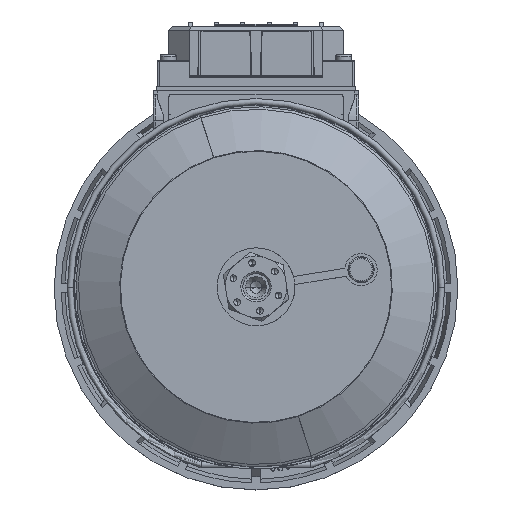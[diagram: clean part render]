
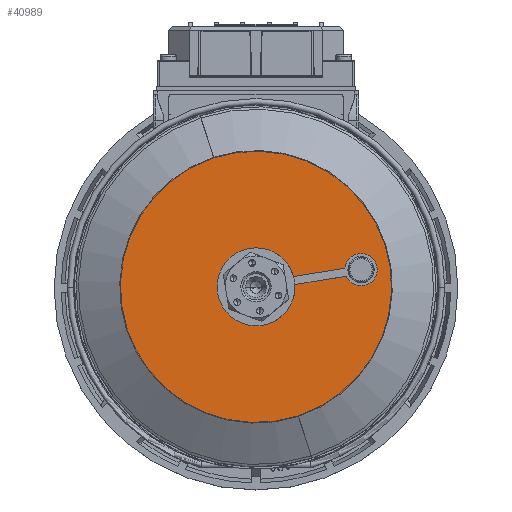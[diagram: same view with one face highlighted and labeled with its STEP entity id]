
A CAD part, top view. The second image highlights one B-rep face of the part: STEP entity #40989.
In plain terms, the highlighted planar face has unit normal (0, 0, 1) as drawn and (0, -1, 0) by its records, which use the part's own axes.
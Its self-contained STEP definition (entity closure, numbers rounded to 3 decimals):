
#1759 = DIRECTION ( 'NONE',  ( 0., 0., 1. ) ) ;
#2091 = ORIENTED_EDGE ( 'NONE', *, *, #23284, .F. ) ;
#5263 = CARTESIAN_POINT ( 'NONE',  ( 0., 0., -13.5 ) ) ;
#9043 = CARTESIAN_POINT ( 'NONE',  ( 0., 0., 67.5 ) ) ;
#9353 = DIRECTION ( 'NONE',  ( 0., 0., -1. ) ) ;
#10522 = CARTESIAN_POINT ( 'NONE',  ( 0., 0., 0. ) ) ;
#10630 = CIRCLE ( 'NONE', #49463, 67.5 ) ;
#11770 = ORIENTED_EDGE ( 'NONE', *, *, #24250, .F. ) ;
#15391 = AXIS2_PLACEMENT_3D ( 'NONE', #106468, #62324, #9353 ) ;
#19390 = DIRECTION ( 'NONE',  ( 0., 0., 1. ) ) ;
#20986 = VERTEX_POINT ( 'NONE', #9043 ) ;
#21715 = EDGE_LOOP ( 'NONE', ( #11770, #2091 ) ) ;
#22048 = VERTEX_POINT ( 'NONE', #92279 ) ;
#23284 = EDGE_CURVE ( 'NONE', #54119, #20986, #10630, .T. ) ;
#24250 = EDGE_CURVE ( 'NONE', #20986, #54119, #89265, .T. ) ;
#28552 = DIRECTION ( 'NONE',  ( 0., 1., 0. ) ) ;
#33649 = VERTEX_POINT ( 'NONE', #5263 ) ;
#35749 = EDGE_CURVE ( 'NONE', #33649, #22048, #102652, .T. ) ;
#40989 = ADVANCED_FACE ( 'NONE', ( #42126, #89164 ), #53432, .T. ) ;
#41204 = CARTESIAN_POINT ( 'NONE',  ( 0., 0., -67.5 ) ) ;
#42126 = FACE_BOUND ( 'NONE', #93524, .T. ) ;
#44772 = DIRECTION ( 'NONE',  ( 0., 1., 0. ) ) ;
#49463 = AXIS2_PLACEMENT_3D ( 'NONE', #10522, #72334, #19390 ) ;
#53432 = PLANE ( 'NONE',  #15391 ) ;
#54119 = VERTEX_POINT ( 'NONE', #41204 ) ;
#54749 = DIRECTION ( 'NONE',  ( 0., 1., 0. ) ) ;
#55418 = AXIS2_PLACEMENT_3D ( 'NONE', #81588, #28552, #90446 ) ;
#59737 = ORIENTED_EDGE ( 'NONE', *, *, #100898, .T. ) ;
#61594 = AXIS2_PLACEMENT_3D ( 'NONE', #97804, #44772, #106719 ) ;
#62324 = DIRECTION ( 'NONE',  ( 0., -1., 0. ) ) ;
#68703 = ORIENTED_EDGE ( 'NONE', *, *, #35749, .T. ) ;
#72334 = DIRECTION ( 'NONE',  ( 0., 1., 0. ) ) ;
#73994 = CIRCLE ( 'NONE', #55418, 13.5 ) ;
#81588 = CARTESIAN_POINT ( 'NONE',  ( 0., 0., 0. ) ) ;
#89164 = FACE_OUTER_BOUND ( 'NONE', #21715, .T. ) ;
#89265 = CIRCLE ( 'NONE', #102226, 67.5 ) ;
#90446 = DIRECTION ( 'NONE',  ( 0., 0., 1. ) ) ;
#92279 = CARTESIAN_POINT ( 'NONE',  ( 0., 0., 13.5 ) ) ;
#93524 = EDGE_LOOP ( 'NONE', ( #59737, #68703 ) ) ;
#97804 = CARTESIAN_POINT ( 'NONE',  ( 0., 0., 0. ) ) ;
#100898 = EDGE_CURVE ( 'NONE', #22048, #33649, #73994, .T. ) ;
#102226 = AXIS2_PLACEMENT_3D ( 'NONE', #107777, #54749, #1759 ) ;
#102652 = CIRCLE ( 'NONE', #61594, 13.5 ) ;
#106468 = CARTESIAN_POINT ( 'NONE',  ( -13.5, 0., 0. ) ) ;
#106719 = DIRECTION ( 'NONE',  ( 0., 0., 1. ) ) ;
#107777 = CARTESIAN_POINT ( 'NONE',  ( 0., 0., 0. ) ) ;
